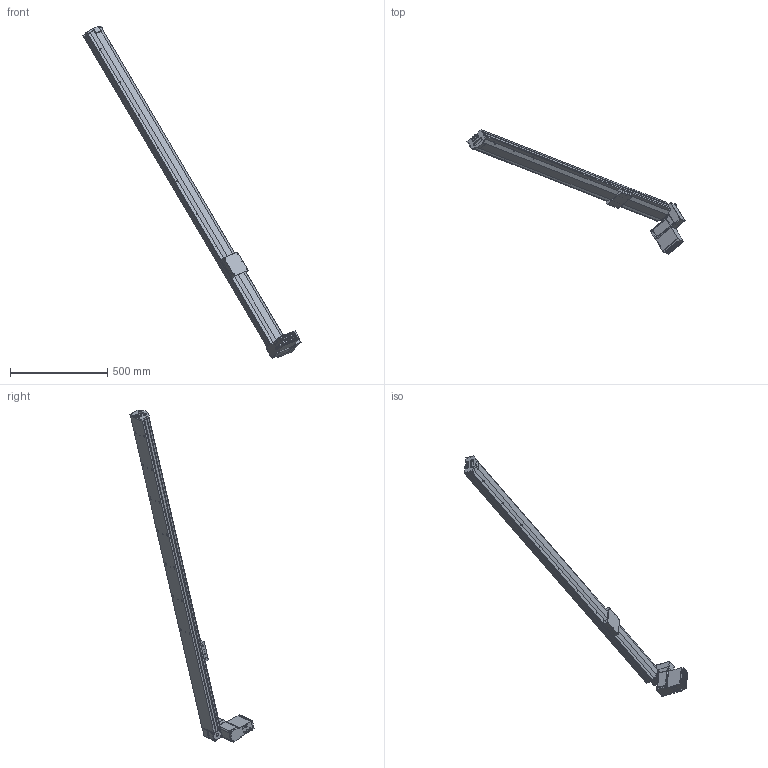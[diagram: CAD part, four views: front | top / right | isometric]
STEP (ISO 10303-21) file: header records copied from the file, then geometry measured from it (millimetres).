
FILE_DESCRIPTION (( 'STEP AP203' ), '1' );
FILE_NAME ('S10 CBH RT S1900.STEP', '2012-10-01T11:52:29', ( '' ), ( '' ), 'SwSTEP 2.0', 'SolidWorks 2010', '' );
FILE_SCHEMA (( 'CONFIG_CONTROL_DESIGN' ));
Length unit declared in the file: millimetre
Products named in the file (9): axe 1900; plaque de bout; palette tbh; S10 CBH RT S1900; embout; moteur M3; MOTEUR GMI 61 ; Plaque racord_; moteur M3_1
Assembly tree (7 placements, depth 3):
  S10 CBH RT S1900
    axe 1900
    plaque de bout
      Plaque racord_
      moteur M3_1
    MOTEUR GMI 61 
    embout
    palette tbh
  moteur M3
Bounding box: 1123.51 x 638.98 x 1710.32 mm (x, y, z)
Volume: 10845769.7 mm3; surface area: 1064429.7 mm2
Topology: 5 solids, 18 shells, 775 faces, 2018 edges, 1268 vertices
Faces by surface type: plane 381, cylinder 285, cone 74, torus 23, bspline 8, sphere 4
Entity records: 26865 total; most frequent: CARTESIAN_POINT 6899, DIRECTION 4037, ORIENTED_EDGE 3788, EDGE_CURVE 1944, AXIS2_PLACEMENT_3D 1394, VERTEX_POINT 1268, LINE 1249, VECTOR 1249
